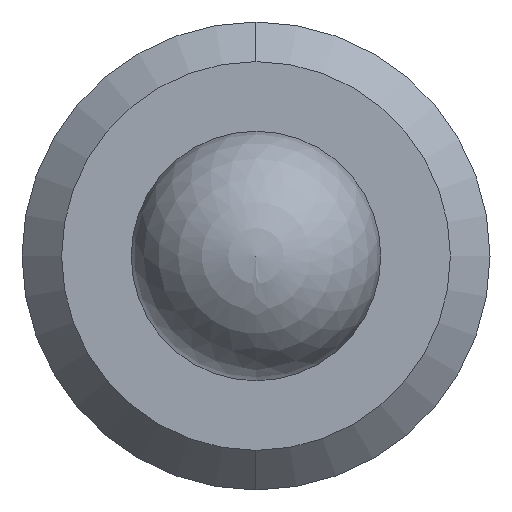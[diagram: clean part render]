
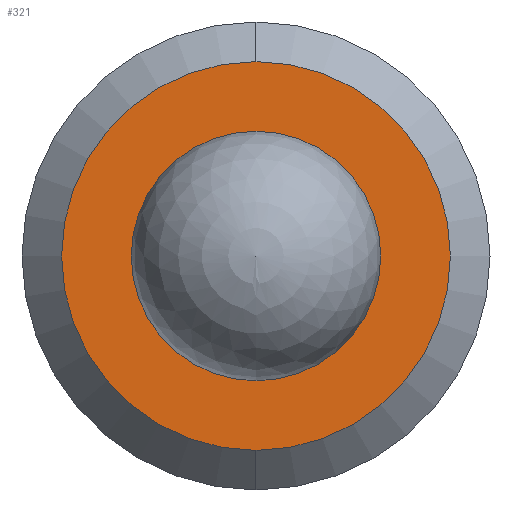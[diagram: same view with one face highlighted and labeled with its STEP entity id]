
A CAD part, left-side view. The second image highlights one B-rep face of the part: STEP entity #321.
In plain terms, the highlighted planar face has unit normal (-1, 0, 0).
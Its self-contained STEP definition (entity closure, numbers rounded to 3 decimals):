
#20 = CIRCLE ( 'NONE', #127, 1.246 ) ;
#25 = CIRCLE ( 'NONE', #277, 0.8 ) ;
#76 = FACE_OUTER_BOUND ( 'NONE', #276, .T. ) ;
#100 = DIRECTION ( 'NONE',  ( 0., 0., 1. ) ) ;
#106 = FACE_BOUND ( 'NONE', #438, .T. ) ;
#127 = AXIS2_PLACEMENT_3D ( 'NONE', #519, #565, #249 ) ;
#131 = VERTEX_POINT ( 'NONE', #298 ) ;
#158 = AXIS2_PLACEMENT_3D ( 'NONE', #604, #583, #100 ) ;
#189 = AXIS2_PLACEMENT_3D ( 'NONE', #591, #590, #588 ) ;
#209 = PLANE ( 'NONE',  #302 ) ;
#242 = VERTEX_POINT ( 'NONE', #364 ) ;
#249 = DIRECTION ( 'NONE',  ( 0., 0., -1. ) ) ;
#276 = EDGE_LOOP ( 'NONE', ( #288, #498 ) ) ;
#277 = AXIS2_PLACEMENT_3D ( 'NONE', #499, #504, #508 ) ;
#288 = ORIENTED_EDGE ( 'NONE', *, *, #450, .T. ) ;
#297 = ORIENTED_EDGE ( 'NONE', *, *, #445, .F. ) ;
#298 = CARTESIAN_POINT ( 'NONE',  ( 0., 0., 0.8 ) ) ;
#302 = AXIS2_PLACEMENT_3D ( 'NONE', #414, #425, #426 ) ;
#316 = ORIENTED_EDGE ( 'NONE', *, *, #355, .F. ) ;
#319 = VERTEX_POINT ( 'NONE', #393 ) ;
#321 = ADVANCED_FACE ( 'NONE', ( #106, #76 ), #209, .F. ) ;
#355 = EDGE_CURVE ( 'NONE', #319, #131, #25, .T. ) ;
#364 = CARTESIAN_POINT ( 'NONE',  ( 0., 0., -1.246 ) ) ;
#393 = CARTESIAN_POINT ( 'NONE',  ( 0., 0., -0.8 ) ) ;
#414 = CARTESIAN_POINT ( 'NONE',  ( 0., 0., 0. ) ) ;
#425 = DIRECTION ( 'NONE',  ( 1., 0., 0. ) ) ;
#426 = DIRECTION ( 'NONE',  ( 0., 0., -1. ) ) ;
#427 = CARTESIAN_POINT ( 'NONE',  ( 0., 0., 1.246 ) ) ;
#429 = EDGE_CURVE ( 'NONE', #500, #242, #557, .T. ) ;
#438 = EDGE_LOOP ( 'NONE', ( #297, #316 ) ) ;
#445 = EDGE_CURVE ( 'NONE', #131, #319, #487, .T. ) ;
#450 = EDGE_CURVE ( 'NONE', #242, #500, #20, .T. ) ;
#487 = CIRCLE ( 'NONE', #158, 0.8 ) ;
#498 = ORIENTED_EDGE ( 'NONE', *, *, #429, .T. ) ;
#499 = CARTESIAN_POINT ( 'NONE',  ( 0., 0., 0. ) ) ;
#500 = VERTEX_POINT ( 'NONE', #427 ) ;
#504 = DIRECTION ( 'NONE',  ( -1., 0., 0. ) ) ;
#508 = DIRECTION ( 'NONE',  ( 0., 0., 1. ) ) ;
#519 = CARTESIAN_POINT ( 'NONE',  ( 0., 0., 0. ) ) ;
#557 = CIRCLE ( 'NONE', #189, 1.246 ) ;
#565 = DIRECTION ( 'NONE',  ( -1., 0., 0. ) ) ;
#583 = DIRECTION ( 'NONE',  ( -1., 0., 0. ) ) ;
#588 = DIRECTION ( 'NONE',  ( 0., 0., -1. ) ) ;
#590 = DIRECTION ( 'NONE',  ( -1., 0., 0. ) ) ;
#591 = CARTESIAN_POINT ( 'NONE',  ( 0., 0., 0. ) ) ;
#604 = CARTESIAN_POINT ( 'NONE',  ( 0., 0., 0. ) ) ;
